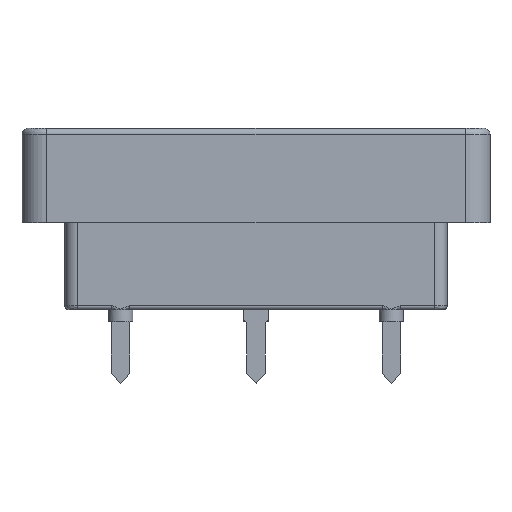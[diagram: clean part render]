
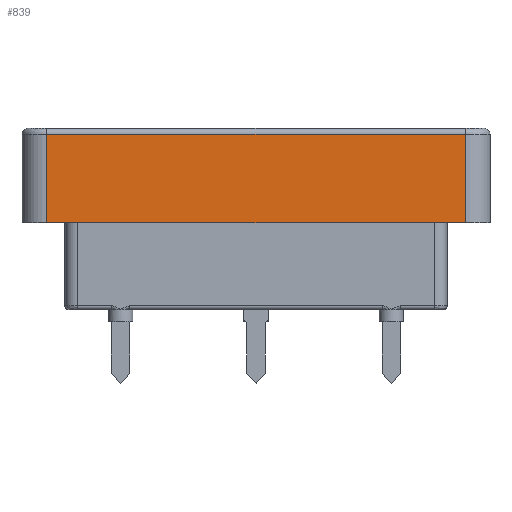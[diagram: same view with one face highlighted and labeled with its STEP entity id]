
A CAD part, front view. The second image highlights one B-rep face of the part: STEP entity #839.
In plain terms, the highlighted planar face has unit normal (0, -1, 0).
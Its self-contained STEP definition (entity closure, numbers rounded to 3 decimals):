
#839 = ADVANCED_FACE ( 'NONE', ( #2186 ), #15233, .T. ) ;
#882 = EDGE_CURVE ( 'NONE', #7121, #26590, #12534, .T. ) ;
#1829 = VECTOR ( 'NONE', #26528, 1000. ) ;
#2186 = FACE_OUTER_BOUND ( 'NONE', #8251, .T. ) ;
#2267 = CARTESIAN_POINT ( 'NONE',  ( 2., 0., 20.343 ) ) ;
#3071 = DIRECTION ( 'NONE',  ( 0., 0., 1. ) ) ;
#3514 = LINE ( 'NONE', #19032, #9978 ) ;
#4355 = CARTESIAN_POINT ( 'NONE',  ( 38.2, 0., 20.343 ) ) ;
#4620 = ORIENTED_EDGE ( 'NONE', *, *, #28111, .T. ) ;
#5717 = CARTESIAN_POINT ( 'NONE',  ( 38.2, 0., 20.843 ) ) ;
#7121 = VERTEX_POINT ( 'NONE', #22924 ) ;
#8025 = DIRECTION ( 'NONE',  ( 0., 0., 1. ) ) ;
#8251 = EDGE_LOOP ( 'NONE', ( #10092, #26687, #4620, #12987 ) ) ;
#8973 = AXIS2_PLACEMENT_3D ( 'NONE', #5717, #24073, #23261 ) ;
#9978 = VECTOR ( 'NONE', #8025, 1000. ) ;
#10092 = ORIENTED_EDGE ( 'NONE', *, *, #17457, .F. ) ;
#10220 = DIRECTION ( 'NONE',  ( -1., 0., 0. ) ) ;
#10350 = VERTEX_POINT ( 'NONE', #18393 ) ;
#12079 = VERTEX_POINT ( 'NONE', #18429 ) ;
#12405 = EDGE_CURVE ( 'NONE', #10350, #12079, #17690, .T. ) ;
#12534 = LINE ( 'NONE', #4355, #19131 ) ;
#12987 = ORIENTED_EDGE ( 'NONE', *, *, #882, .T. ) ;
#15233 = PLANE ( 'NONE',  #8973 ) ;
#17457 = EDGE_CURVE ( 'NONE', #12079, #26590, #18026, .T. ) ;
#17690 = LINE ( 'NONE', #22182, #1829 ) ;
#18026 = LINE ( 'NONE', #27719, #28162 ) ;
#18393 = CARTESIAN_POINT ( 'NONE',  ( 36.2, 0., 13.143 ) ) ;
#18429 = CARTESIAN_POINT ( 'NONE',  ( 2., 0., 13.143 ) ) ;
#19032 = CARTESIAN_POINT ( 'NONE',  ( 36.2, 0., 20.843 ) ) ;
#19131 = VECTOR ( 'NONE', #10220, 1000. ) ;
#22182 = CARTESIAN_POINT ( 'NONE',  ( 0., 0., 13.143 ) ) ;
#22924 = CARTESIAN_POINT ( 'NONE',  ( 36.2, 0., 20.343 ) ) ;
#23261 = DIRECTION ( 'NONE',  ( 1., 0., 0. ) ) ;
#24073 = DIRECTION ( 'NONE',  ( 0., -1., 0. ) ) ;
#26528 = DIRECTION ( 'NONE',  ( -1., 0., 0. ) ) ;
#26590 = VERTEX_POINT ( 'NONE', #2267 ) ;
#26687 = ORIENTED_EDGE ( 'NONE', *, *, #12405, .F. ) ;
#27719 = CARTESIAN_POINT ( 'NONE',  ( 2., 0., 20.843 ) ) ;
#28111 = EDGE_CURVE ( 'NONE', #10350, #7121, #3514, .T. ) ;
#28162 = VECTOR ( 'NONE', #3071, 1000. ) ;
